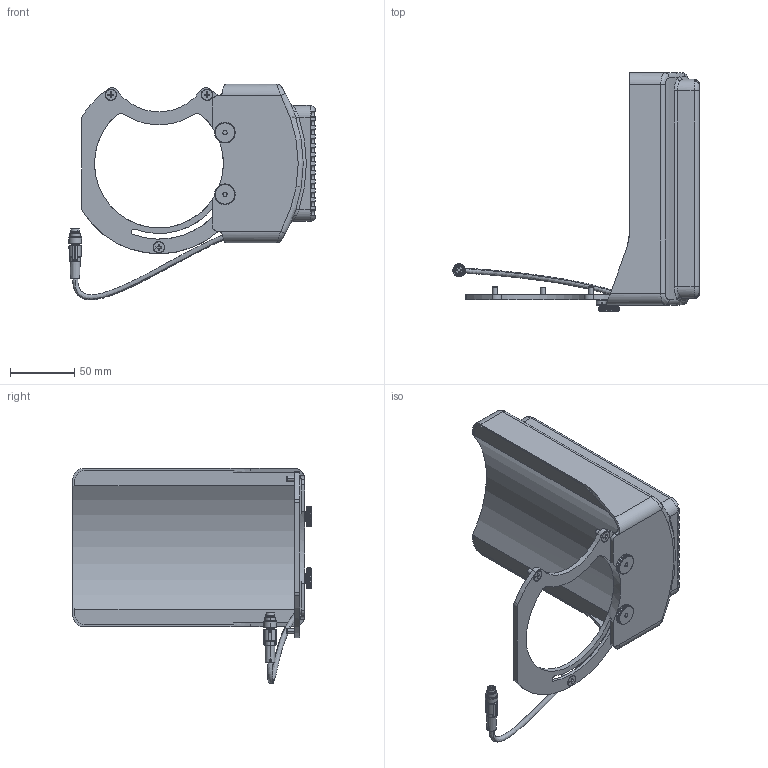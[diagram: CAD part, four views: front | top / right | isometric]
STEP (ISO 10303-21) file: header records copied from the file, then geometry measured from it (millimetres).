
FILE_DESCRIPTION(/* description */ ('AP214 STEP file'),/* implementation_level */ '2;1');
FILE_NAME(/* name */ '300435248_y09_000_out',/* time_stamp */ '2014-06-26T15:58:48+02:00',/* author */ (''),/* organization */ (''),/* preprocessor_version */ '',/* originating_system */ 'STEP',/* authorisation */ '');
FILE_SCHEMA (('AUTOMOTIVE_DESIGN'));
Length unit declared in the file: millimetre
Products named in the file (1): 300435248_Y09_000
Bounding box: 191.34 x 184.8 x 167.24 mm (x, y, z)
Volume: 888742.4 mm3; surface area: 107673.7 mm2
Topology: 1 solids, 1 shells, 1004 faces, 2340 edges, 1376 vertices
Faces by surface type: plane 476, cone 244, cylinder 222, torus 42, bspline 20
Entity records: 28058 total; most frequent: CARTESIAN_POINT 8925, ORIENTED_EDGE 4680, EDGE_CURVE 2340, AXIS2_PLACEMENT_3D 1745, VERTEX_POINT 1376, EDGE_LOOP 1050, VECTOR 1008, LINE 1008
